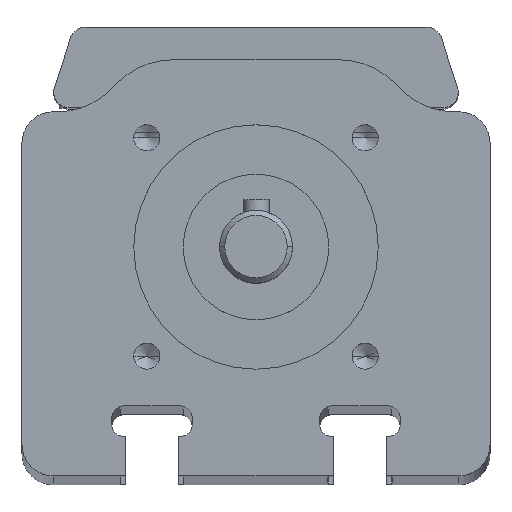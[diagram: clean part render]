
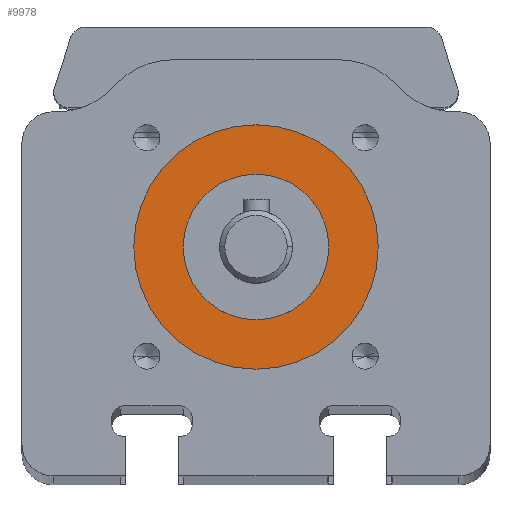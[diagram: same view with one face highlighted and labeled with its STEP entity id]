
A CAD part, top view. The second image highlights one B-rep face of the part: STEP entity #9978.
In plain terms, the highlighted planar face has unit normal (0, 0, 1).
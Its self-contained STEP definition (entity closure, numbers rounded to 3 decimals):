
#215 = AXIS2_PLACEMENT_3D ( 'NONE', #3130, #5610, #1466 ) ;
#810 = CARTESIAN_POINT ( 'NONE',  ( 14., 1.879, 9.6 ) ) ;
#1300 = PLANE ( 'NONE',  #215 ) ;
#1466 = DIRECTION ( 'NONE',  ( 1., 0., 0. ) ) ;
#1538 = CIRCLE ( 'NONE', #1899, 23.5 ) ;
#1899 = AXIS2_PLACEMENT_3D ( 'NONE', #7586, #10106, #8098 ) ;
#2165 = VERTEX_POINT ( 'NONE', #4788 ) ;
#2846 = DIRECTION ( 'NONE',  ( 1., 0., 0. ) ) ;
#2975 = CIRCLE ( 'NONE', #8411, 14. ) ;
#2994 = CARTESIAN_POINT ( 'NONE',  ( 0., 1.879, 9.6 ) ) ;
#3080 = CARTESIAN_POINT ( 'NONE',  ( -23.5, 1.879, 9.6 ) ) ;
#3130 = CARTESIAN_POINT ( 'NONE',  ( 0., 1.879, 9.6 ) ) ;
#3332 = CIRCLE ( 'NONE', #4918, 14. ) ;
#3415 = DIRECTION ( 'NONE',  ( 0., 0., 1. ) ) ;
#3434 = VERTEX_POINT ( 'NONE', #5618 ) ;
#3604 = EDGE_CURVE ( 'NONE', #2165, #5698, #1538, .T. ) ;
#3802 = ORIENTED_EDGE ( 'NONE', *, *, #3604, .T. ) ;
#3870 = CIRCLE ( 'NONE', #6137, 23.5 ) ;
#4396 = ORIENTED_EDGE ( 'NONE', *, *, #7538, .F. ) ;
#4401 = ORIENTED_EDGE ( 'NONE', *, *, #6906, .T. ) ;
#4788 = CARTESIAN_POINT ( 'NONE',  ( 23.5, 1.879, 9.6 ) ) ;
#4918 = AXIS2_PLACEMENT_3D ( 'NONE', #6468, #7413, #9951 ) ;
#5190 = ORIENTED_EDGE ( 'NONE', *, *, #8392, .F. ) ;
#5398 = FACE_OUTER_BOUND ( 'NONE', #9787, .T. ) ;
#5478 = DIRECTION ( 'NONE',  ( 0., 0., 1. ) ) ;
#5610 = DIRECTION ( 'NONE',  ( 0., 0., 1. ) ) ;
#5618 = CARTESIAN_POINT ( 'NONE',  ( -14., 1.879, 9.6 ) ) ;
#5698 = VERTEX_POINT ( 'NONE', #3080 ) ;
#5953 = FACE_BOUND ( 'NONE', #10055, .T. ) ;
#6137 = AXIS2_PLACEMENT_3D ( 'NONE', #10137, #3415, #2846 ) ;
#6468 = CARTESIAN_POINT ( 'NONE',  ( 0., 1.879, 9.6 ) ) ;
#6906 = EDGE_CURVE ( 'NONE', #5698, #2165, #3870, .T. ) ;
#7137 = DIRECTION ( 'NONE',  ( 1., 0., 0. ) ) ;
#7413 = DIRECTION ( 'NONE',  ( 0., 0., 1. ) ) ;
#7538 = EDGE_CURVE ( 'NONE', #3434, #9622, #3332, .T. ) ;
#7586 = CARTESIAN_POINT ( 'NONE',  ( 0., 1.879, 9.6 ) ) ;
#8098 = DIRECTION ( 'NONE',  ( 1., 0., 0. ) ) ;
#8392 = EDGE_CURVE ( 'NONE', #9622, #3434, #2975, .T. ) ;
#8411 = AXIS2_PLACEMENT_3D ( 'NONE', #2994, #5478, #7137 ) ;
#9622 = VERTEX_POINT ( 'NONE', #810 ) ;
#9787 = EDGE_LOOP ( 'NONE', ( #3802, #4401 ) ) ;
#9951 = DIRECTION ( 'NONE',  ( 1., 0., 0. ) ) ;
#9978 = ADVANCED_FACE ( 'NONE', ( #5953, #5398 ), #1300, .T. ) ;
#10055 = EDGE_LOOP ( 'NONE', ( #4396, #5190 ) ) ;
#10106 = DIRECTION ( 'NONE',  ( 0., 0., 1. ) ) ;
#10137 = CARTESIAN_POINT ( 'NONE',  ( 0., 1.879, 9.6 ) ) ;
